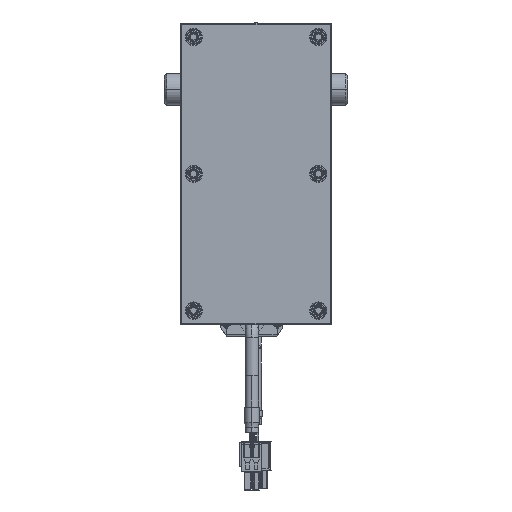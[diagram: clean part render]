
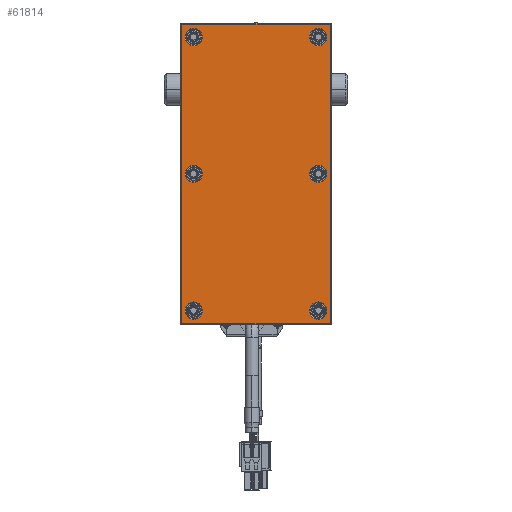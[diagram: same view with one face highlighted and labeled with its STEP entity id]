
A CAD part, front view. The second image highlights one B-rep face of the part: STEP entity #61814.
In plain terms, the highlighted planar face has unit normal (0, -1, 0).
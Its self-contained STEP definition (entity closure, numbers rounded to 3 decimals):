
#60431=CARTESIAN_POINT('',(74.,-6.,-36.5));
#60432=DIRECTION('',(0.,-1.,0.));
#60433=DIRECTION('',(0.,0.,-1.));
#60434=AXIS2_PLACEMENT_3D('',#60431,#60432,#60433);
#60436=DIRECTION('',(1.,0.,0.));
#60437=VECTOR('',#60436,148.);
#60438=CARTESIAN_POINT('',(-74.,-6.,
-37.));
#60439=LINE('',#60438,#60437);
#60440=CARTESIAN_POINT('',(-74.,-6.,-36.5));
#60441=DIRECTION('',(0.,-1.,0.));
#60442=DIRECTION('',(-1.,0.,0.));
#60443=AXIS2_PLACEMENT_3D('',#60440,#60441,#60442);
#60445=DIRECTION('',(0.,0.,-1.));
#60446=VECTOR('',#60445,73.);
#60447=CARTESIAN_POINT('',(-74.5,-6.,
36.5));
#60448=LINE('',#60447,#60446);
#60449=CARTESIAN_POINT('',(-74.,-6.,36.5));
#60450=DIRECTION('',(0.,-1.,0.));
#60451=DIRECTION('',(0.,0.,1.));
#60452=AXIS2_PLACEMENT_3D('',#60449,#60450,#60451);
#60454=DIRECTION('',(-1.,0.,0.));
#60455=VECTOR('',#60454,148.);
#60456=CARTESIAN_POINT('',(74.,-6.,
37.));
#60457=LINE('',#60456,#60455);
#60458=CARTESIAN_POINT('',(74.,-6.,36.5));
#60459=DIRECTION('',(0.,-1.,0.));
#60460=DIRECTION('',(1.,0.,0.));
#60461=AXIS2_PLACEMENT_3D('',#60458,#60459,#60460);
#60463=DIRECTION('',(0.,0.,1.));
#60464=VECTOR('',#60463,73.);
#60465=CARTESIAN_POINT('',(74.5,-6.,
-36.5));
#60466=LINE('',#60465,#60464);
#60467=CARTESIAN_POINT('',(-68.,-6.,-31.));
#60468=DIRECTION('',(0.,1.,0.));
#60469=DIRECTION('',(1.,0.,0.));
#60470=AXIS2_PLACEMENT_3D('',#60467,#60468,#60469);
#60472=CARTESIAN_POINT('',(-68.,-6.,-31.));
#60473=DIRECTION('',(0.,1.,0.));
#60474=DIRECTION('',(-1.,0.,0.));
#60475=AXIS2_PLACEMENT_3D('',#60472,#60473,#60474);
#60477=CARTESIAN_POINT('',(0.,-6.,-31.));
#60478=DIRECTION('',(0.,1.,0.));
#60479=DIRECTION('',(1.,0.,0.));
#60480=AXIS2_PLACEMENT_3D('',#60477,#60478,#60479);
#60482=CARTESIAN_POINT('',(0.,-6.,-31.));
#60483=DIRECTION('',(0.,1.,0.));
#60484=DIRECTION('',(-1.,0.,0.));
#60485=AXIS2_PLACEMENT_3D('',#60482,#60483,#60484);
#60487=CARTESIAN_POINT('',(68.,-6.,-31.));
#60488=DIRECTION('',(0.,1.,0.));
#60489=DIRECTION('',(1.,0.,0.));
#60490=AXIS2_PLACEMENT_3D('',#60487,#60488,#60489);
#60492=CARTESIAN_POINT('',(68.,-6.,-31.));
#60493=DIRECTION('',(0.,1.,0.));
#60494=DIRECTION('',(-1.,0.,0.));
#60495=AXIS2_PLACEMENT_3D('',#60492,#60493,#60494);
#60497=CARTESIAN_POINT('',(68.,-6.,31.));
#60498=DIRECTION('',(0.,1.,0.));
#60499=DIRECTION('',(1.,0.,0.));
#60500=AXIS2_PLACEMENT_3D('',#60497,#60498,#60499);
#60502=CARTESIAN_POINT('',(68.,-6.,31.));
#60503=DIRECTION('',(0.,1.,0.));
#60504=DIRECTION('',(-1.,0.,0.));
#60505=AXIS2_PLACEMENT_3D('',#60502,#60503,#60504);
#60507=CARTESIAN_POINT('',(0.,-6.,31.));
#60508=DIRECTION('',(0.,1.,0.));
#60509=DIRECTION('',(1.,0.,0.));
#60510=AXIS2_PLACEMENT_3D('',#60507,#60508,#60509);
#60512=CARTESIAN_POINT('',(0.,-6.,31.));
#60513=DIRECTION('',(0.,1.,0.));
#60514=DIRECTION('',(-1.,0.,0.));
#60515=AXIS2_PLACEMENT_3D('',#60512,#60513,#60514);
#60517=CARTESIAN_POINT('',(-68.,-6.,31.));
#60518=DIRECTION('',(0.,1.,0.));
#60519=DIRECTION('',(1.,0.,0.));
#60520=AXIS2_PLACEMENT_3D('',#60517,#60518,#60519);
#60522=CARTESIAN_POINT('',(-68.,-6.,31.));
#60523=DIRECTION('',(0.,1.,0.));
#60524=DIRECTION('',(-1.,0.,0.));
#60525=AXIS2_PLACEMENT_3D('',#60522,#60523,#60524);
#61555=CARTESIAN_POINT('',(74.,-6.,-37.));
#61556=CARTESIAN_POINT('',(74.5,-6.,-36.5));
#61557=VERTEX_POINT('',#61555);
#61558=VERTEX_POINT('',#61556);
#61563=CARTESIAN_POINT('',(74.5,-6.,
36.5));
#61564=VERTEX_POINT('',#61563);
#61567=CARTESIAN_POINT('',(74.,-6.,37.));
#61568=VERTEX_POINT('',#61567);
#61571=CARTESIAN_POINT('',(-74.,-6.,
37.));
#61572=VERTEX_POINT('',#61571);
#61575=CARTESIAN_POINT('',(-74.5,-6.,36.5));
#61576=VERTEX_POINT('',#61575);
#61579=CARTESIAN_POINT('',(-74.5,-6.,
-36.5));
#61580=VERTEX_POINT('',#61579);
#61583=CARTESIAN_POINT('',(-74.,-6.,-37.));
#61584=VERTEX_POINT('',#61583);
#61611=CARTESIAN_POINT('',(-63.7,-6.,-31.));
#61612=CARTESIAN_POINT('',(-72.3,-6.,-31.));
#61613=VERTEX_POINT('',#61611);
#61614=VERTEX_POINT('',#61612);
#61627=CARTESIAN_POINT('',(4.3,-6.,-31.));
#61628=CARTESIAN_POINT('',(-4.3,-6.,-31.));
#61629=VERTEX_POINT('',#61627);
#61630=VERTEX_POINT('',#61628);
#61651=CARTESIAN_POINT('',(72.3,-6.,-31.));
#61652=CARTESIAN_POINT('',(63.7,-6.,-31.));
#61653=VERTEX_POINT('',#61651);
#61654=VERTEX_POINT('',#61652);
#61667=CARTESIAN_POINT('',(72.3,-6.,31.));
#61668=CARTESIAN_POINT('',(63.7,-6.,31.));
#61669=VERTEX_POINT('',#61667);
#61670=VERTEX_POINT('',#61668);
#61675=CARTESIAN_POINT('',(4.3,-6.,31.));
#61676=CARTESIAN_POINT('',(-4.3,-6.,31.));
#61677=VERTEX_POINT('',#61675);
#61678=VERTEX_POINT('',#61676);
#61699=CARTESIAN_POINT('',(-63.7,-6.,31.));
#61700=CARTESIAN_POINT('',(-72.3,-6.,31.));
#61701=VERTEX_POINT('',#61699);
#61702=VERTEX_POINT('',#61700);
#61755=CARTESIAN_POINT('',(0.,-6.,0.));
#61756=DIRECTION('',(0.,1.,0.));
#61757=DIRECTION('',(1.,0.,0.));
#61758=AXIS2_PLACEMENT_3D('',#61755,#61756,#61757);
#61759=PLANE('',#61758);
#61761=ORIENTED_EDGE('',*,*,#61760,.F.);
#61763=ORIENTED_EDGE('',*,*,#61762,.F.);
#61765=ORIENTED_EDGE('',*,*,#61764,.F.);
#61767=ORIENTED_EDGE('',*,*,#61766,.F.);
#61769=ORIENTED_EDGE('',*,*,#61768,.F.);
#61771=ORIENTED_EDGE('',*,*,#61770,.F.);
#61773=ORIENTED_EDGE('',*,*,#61772,.F.);
#61775=ORIENTED_EDGE('',*,*,#61774,.F.);
#61776=EDGE_LOOP('',(#61761,#61763,#61765,#61767,#61769,#61771,#61773,#61775));
#61777=FACE_OUTER_BOUND('',#61776,.F.);
#61779=ORIENTED_EDGE('',*,*,#61778,.F.);
#61781=ORIENTED_EDGE('',*,*,#61780,.F.);
#61782=EDGE_LOOP('',(#61779,#61781));
#61783=FACE_BOUND('',#61782,.F.);
#61785=ORIENTED_EDGE('',*,*,#61784,.F.);
#61787=ORIENTED_EDGE('',*,*,#61786,.F.);
#61788=EDGE_LOOP('',(#61785,#61787));
#61789=FACE_BOUND('',#61788,.F.);
#61791=ORIENTED_EDGE('',*,*,#61790,.F.);
#61793=ORIENTED_EDGE('',*,*,#61792,.F.);
#61794=EDGE_LOOP('',(#61791,#61793));
#61795=FACE_BOUND('',#61794,.F.);
#61797=ORIENTED_EDGE('',*,*,#61796,.F.);
#61799=ORIENTED_EDGE('',*,*,#61798,.F.);
#61800=EDGE_LOOP('',(#61797,#61799));
#61801=FACE_BOUND('',#61800,.F.);
#61803=ORIENTED_EDGE('',*,*,#61802,.F.);
#61805=ORIENTED_EDGE('',*,*,#61804,.F.);
#61806=EDGE_LOOP('',(#61803,#61805));
#61807=FACE_BOUND('',#61806,.F.);
#61809=ORIENTED_EDGE('',*,*,#61808,.F.);
#61811=ORIENTED_EDGE('',*,*,#61810,.F.);
#61812=EDGE_LOOP('',(#61809,#61811));
#61813=FACE_BOUND('',#61812,.F.);
#61814=ADVANCED_FACE('',(#61777,#61783,#61789,#61795,#61801,#61807,#61813),
#61759,.F.);
#60435=CIRCLE('',#60434,0.5);
#60444=CIRCLE('',#60443,0.5);
#60453=CIRCLE('',#60452,0.5);
#60462=CIRCLE('',#60461,0.5);
#60471=CIRCLE('',#60470,4.3);
#60476=CIRCLE('',#60475,4.3);
#60481=CIRCLE('',#60480,4.3);
#60486=CIRCLE('',#60485,4.3);
#60491=CIRCLE('',#60490,4.3);
#60496=CIRCLE('',#60495,4.3);
#60501=CIRCLE('',#60500,4.3);
#60506=CIRCLE('',#60505,4.3);
#60511=CIRCLE('',#60510,4.3);
#60516=CIRCLE('',#60515,4.3);
#60521=CIRCLE('',#60520,4.3);
#60526=CIRCLE('',#60525,4.3);
#61760=EDGE_CURVE('',#61557,#61558,#60435,.T.);
#61762=EDGE_CURVE('',#61584,#61557,#60439,.T.);
#61764=EDGE_CURVE('',#61580,#61584,#60444,.T.);
#61766=EDGE_CURVE('',#61576,#61580,#60448,.T.);
#61768=EDGE_CURVE('',#61572,#61576,#60453,.T.);
#61770=EDGE_CURVE('',#61568,#61572,#60457,.T.);
#61772=EDGE_CURVE('',#61564,#61568,#60462,.T.);
#61774=EDGE_CURVE('',#61558,#61564,#60466,.T.);
#61778=EDGE_CURVE('',#61613,#61614,#60471,.T.);
#61780=EDGE_CURVE('',#61614,#61613,#60476,.T.);
#61784=EDGE_CURVE('',#61629,#61630,#60481,.T.);
#61786=EDGE_CURVE('',#61630,#61629,#60486,.T.);
#61790=EDGE_CURVE('',#61653,#61654,#60491,.T.);
#61792=EDGE_CURVE('',#61654,#61653,#60496,.T.);
#61796=EDGE_CURVE('',#61669,#61670,#60501,.T.);
#61798=EDGE_CURVE('',#61670,#61669,#60506,.T.);
#61802=EDGE_CURVE('',#61677,#61678,#60511,.T.);
#61804=EDGE_CURVE('',#61678,#61677,#60516,.T.);
#61808=EDGE_CURVE('',#61701,#61702,#60521,.T.);
#61810=EDGE_CURVE('',#61702,#61701,#60526,.T.);
